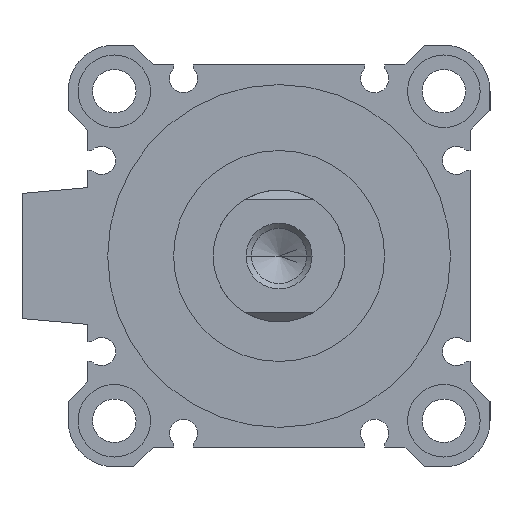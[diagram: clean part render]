
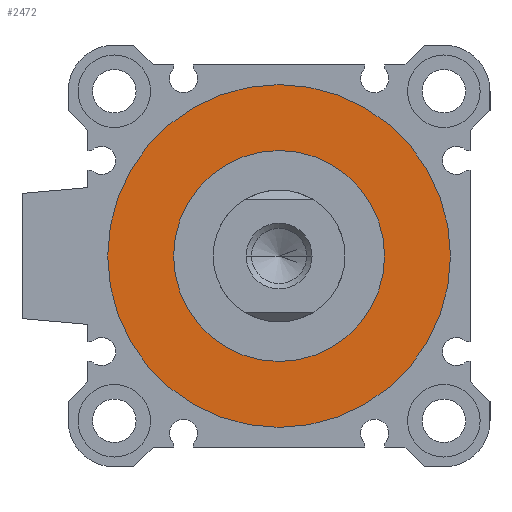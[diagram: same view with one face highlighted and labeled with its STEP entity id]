
A CAD part, left-side view. The second image highlights one B-rep face of the part: STEP entity #2472.
In plain terms, the highlighted planar face has unit normal (-1, 0, 0).
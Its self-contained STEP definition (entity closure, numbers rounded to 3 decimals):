
#51 = EDGE_CURVE ( 'NONE', #2683, #4057, #2930, .T. ) ;
#335 = CIRCLE ( 'NONE', #1388, 16. ) ;
#514 = DIRECTION ( 'NONE',  ( 1., 0., 0. ) ) ;
#567 = VERTEX_POINT ( 'NONE', #2985 ) ;
#735 = AXIS2_PLACEMENT_3D ( 'NONE', #4421, #936, #4821 ) ;
#936 = DIRECTION ( 'NONE',  ( 1., 0., 0. ) ) ;
#1014 = AXIS2_PLACEMENT_3D ( 'NONE', #2869, #2564, #1785 ) ;
#1266 = DIRECTION ( 'NONE',  ( 1., 0., 0. ) ) ;
#1286 = DIRECTION ( 'NONE',  ( 0., 1., 0. ) ) ;
#1388 = AXIS2_PLACEMENT_3D ( 'NONE', #1547, #1605, #3861 ) ;
#1434 = EDGE_CURVE ( 'NONE', #567, #3371, #4096, .T. ) ;
#1547 = CARTESIAN_POINT ( 'NONE',  ( 3., 0., 0. ) ) ;
#1556 = EDGE_LOOP ( 'NONE', ( #3829, #3334 ) ) ;
#1605 = DIRECTION ( 'NONE',  ( 1., 0., 0. ) ) ;
#1696 = CARTESIAN_POINT ( 'NONE',  ( 3., 0., 0. ) ) ;
#1785 = DIRECTION ( 'NONE',  ( 0., 0., -1. ) ) ;
#1876 = EDGE_CURVE ( 'NONE', #3371, #567, #4497, .T. ) ;
#1973 = DIRECTION ( 'NONE',  ( 0., 0., -1. ) ) ;
#2055 = ORIENTED_EDGE ( 'NONE', *, *, #51, .T. ) ;
#2308 = AXIS2_PLACEMENT_3D ( 'NONE', #2781, #1266, #1973 ) ;
#2472 = ADVANCED_FACE ( 'NONE', ( #4431, #3970 ), #3238, .F. ) ;
#2564 = DIRECTION ( 'NONE',  ( 1., 0., 0. ) ) ;
#2578 = ORIENTED_EDGE ( 'NONE', *, *, #3396, .T. ) ;
#2683 = VERTEX_POINT ( 'NONE', #3811 ) ;
#2781 = CARTESIAN_POINT ( 'NONE',  ( 3., 0., 0. ) ) ;
#2869 = CARTESIAN_POINT ( 'NONE',  ( 3., 0., 0. ) ) ;
#2930 = CIRCLE ( 'NONE', #735, 16. ) ;
#2985 = CARTESIAN_POINT ( 'NONE',  ( 3., 0., 26. ) ) ;
#3059 = EDGE_LOOP ( 'NONE', ( #2578, #2055 ) ) ;
#3238 = PLANE ( 'NONE',  #3458 ) ;
#3334 = ORIENTED_EDGE ( 'NONE', *, *, #1876, .F. ) ;
#3371 = VERTEX_POINT ( 'NONE', #4215 ) ;
#3396 = EDGE_CURVE ( 'NONE', #4057, #2683, #335, .T. ) ;
#3458 = AXIS2_PLACEMENT_3D ( 'NONE', #1696, #514, #1286 ) ;
#3811 = CARTESIAN_POINT ( 'NONE',  ( 3., 0., -16. ) ) ;
#3829 = ORIENTED_EDGE ( 'NONE', *, *, #1434, .F. ) ;
#3844 = CARTESIAN_POINT ( 'NONE',  ( 3., 0., 16. ) ) ;
#3861 = DIRECTION ( 'NONE',  ( 0., 0., -1. ) ) ;
#3970 = FACE_BOUND ( 'NONE', #3059, .T. ) ;
#4057 = VERTEX_POINT ( 'NONE', #3844 ) ;
#4096 = CIRCLE ( 'NONE', #1014, 26. ) ;
#4215 = CARTESIAN_POINT ( 'NONE',  ( 3., 0., -26. ) ) ;
#4421 = CARTESIAN_POINT ( 'NONE',  ( 3., 0., 0. ) ) ;
#4431 = FACE_OUTER_BOUND ( 'NONE', #1556, .T. ) ;
#4497 = CIRCLE ( 'NONE', #2308, 26. ) ;
#4821 = DIRECTION ( 'NONE',  ( 0., 0., -1. ) ) ;
